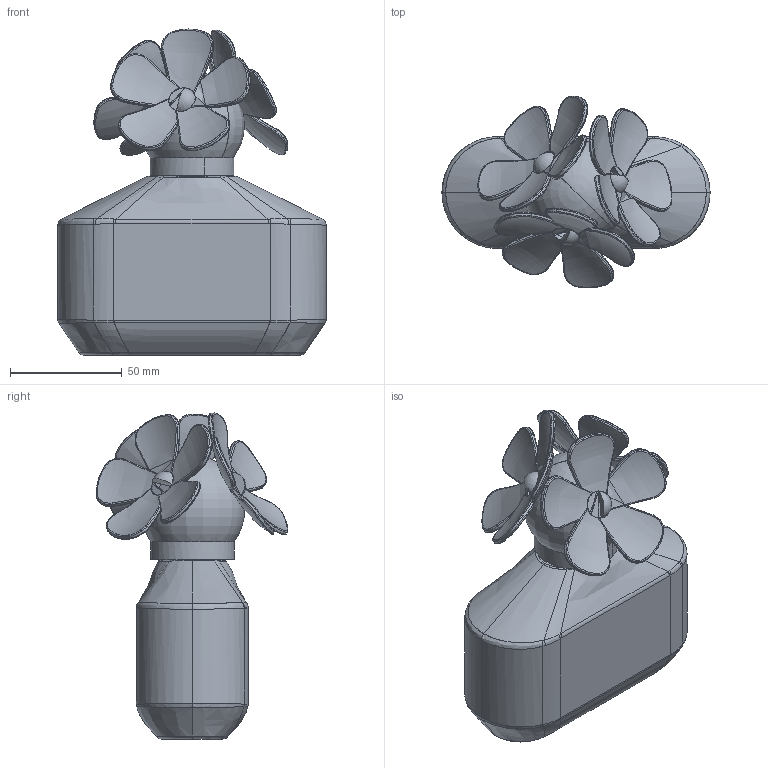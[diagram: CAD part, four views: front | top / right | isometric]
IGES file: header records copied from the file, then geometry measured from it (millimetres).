
Start section: START RECORD GO HERE.
Global section: file name: Product1.igs; native system: IBM CATIA IGES - CATIA Version 5 Release 19 ; preprocessor: CATIA Version 5 Release 19 ; author: ABHIJEET; organization: ABHIJEET-PC; date: 20111029.174245; units: millimetre
Bounding box: 120 x 85.69 x 145.91 mm (x, y, z)
Surface area: 82563 mm2 (no closed solid volume)
Topology: 0 solids, 0 shells, 546 faces, 2811 edges, 2798 vertices
Faces by surface type: bspline 382, revolution 120, plane 44
